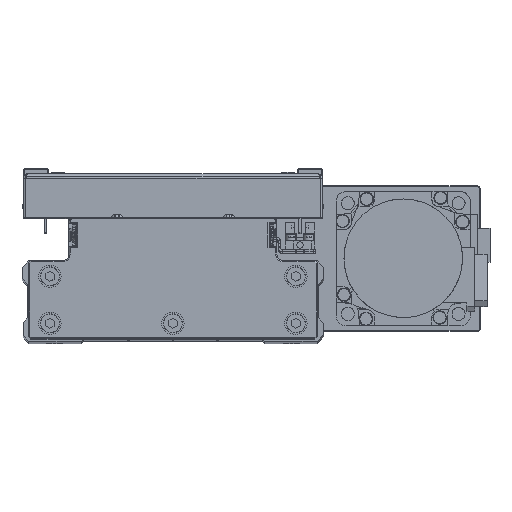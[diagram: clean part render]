
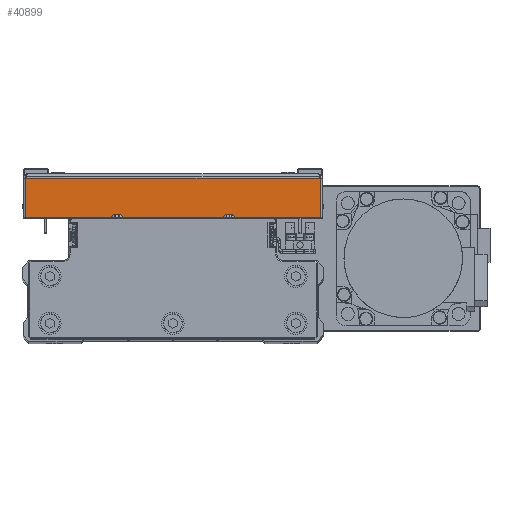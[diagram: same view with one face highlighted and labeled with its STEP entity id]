
A CAD part, top view. The second image highlights one B-rep face of the part: STEP entity #40899.
In plain terms, the highlighted planar face has unit normal (0, 0, 1) as drawn and (1, 0, 0) by its records, which use the part's own axes.
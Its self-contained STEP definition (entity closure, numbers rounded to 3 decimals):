
#1732 = VECTOR ( 'NONE', #19656, 1000. ) ;
#1857 = LINE ( 'NONE', #15405, #17064 ) ;
#1991 = VERTEX_POINT ( 'NONE', #13953 ) ;
#3387 = LINE ( 'NONE', #16944, #14911 ) ;
#3409 = CARTESIAN_POINT ( 'NONE',  ( 100., 18.5, -65.929 ) ) ;
#3882 = EDGE_CURVE ( 'NONE', #31457, #27738, #36561, .T. ) ;
#6027 = ORIENTED_EDGE ( 'NONE', *, *, #12330, .F. ) ;
#6105 = CARTESIAN_POINT ( 'NONE',  ( 100., 0., -65.929 ) ) ;
#8465 = AXIS2_PLACEMENT_3D ( 'NONE', #25812, #39365, #8909 ) ;
#8909 = DIRECTION ( 'NONE',  ( 0., -1., 0. ) ) ;
#9987 = CARTESIAN_POINT ( 'NONE',  ( 100., 1., -65.929 ) ) ;
#10269 = LINE ( 'NONE', #23827, #18485 ) ;
#12250 = PLANE ( 'NONE',  #8465 ) ;
#12330 = EDGE_CURVE ( 'NONE', #12935, #1991, #1857, .T. ) ;
#12515 = EDGE_CURVE ( 'NONE', #31457, #12935, #10269, .T. ) ;
#12935 = VERTEX_POINT ( 'NONE', #31277 ) ;
#13953 = CARTESIAN_POINT ( 'NONE',  ( 100., 18.5, 65.929 ) ) ;
#14911 = VECTOR ( 'NONE', #30503, 1000. ) ;
#15405 = CARTESIAN_POINT ( 'NONE',  ( 100., 0., 65.929 ) ) ;
#16944 = CARTESIAN_POINT ( 'NONE',  ( 100., 18.5, 0. ) ) ;
#17064 = VECTOR ( 'NONE', #28962, 1000. ) ;
#18485 = VECTOR ( 'NONE', #37380, 1000. ) ;
#19656 = DIRECTION ( 'NONE',  ( 0., 1., 0. ) ) ;
#19805 = EDGE_LOOP ( 'NONE', ( #42639, #43837, #40424, #6027 ) ) ;
#20761 = EDGE_CURVE ( 'NONE', #27738, #1991, #3387, .T. ) ;
#23827 = CARTESIAN_POINT ( 'NONE',  ( 100., 1., 67. ) ) ;
#25812 = CARTESIAN_POINT ( 'NONE',  ( 100., 0., 0. ) ) ;
#27738 = VERTEX_POINT ( 'NONE', #3409 ) ;
#28962 = DIRECTION ( 'NONE',  ( 0., 1., 0. ) ) ;
#30503 = DIRECTION ( 'NONE',  ( 0., 0., 1. ) ) ;
#31277 = CARTESIAN_POINT ( 'NONE',  ( 100., 1., 65.929 ) ) ;
#31457 = VERTEX_POINT ( 'NONE', #9987 ) ;
#36561 = LINE ( 'NONE', #6105, #1732 ) ;
#37380 = DIRECTION ( 'NONE',  ( 0., 0., 1. ) ) ;
#39365 = DIRECTION ( 'NONE',  ( -1., 0., 0. ) ) ;
#40424 = ORIENTED_EDGE ( 'NONE', *, *, #20761, .T. ) ;
#40899 = ADVANCED_FACE ( 'NONE', ( #42682 ), #12250, .F. ) ;
#42639 = ORIENTED_EDGE ( 'NONE', *, *, #12515, .F. ) ;
#42682 = FACE_OUTER_BOUND ( 'NONE', #19805, .T. ) ;
#43837 = ORIENTED_EDGE ( 'NONE', *, *, #3882, .T. ) ;
